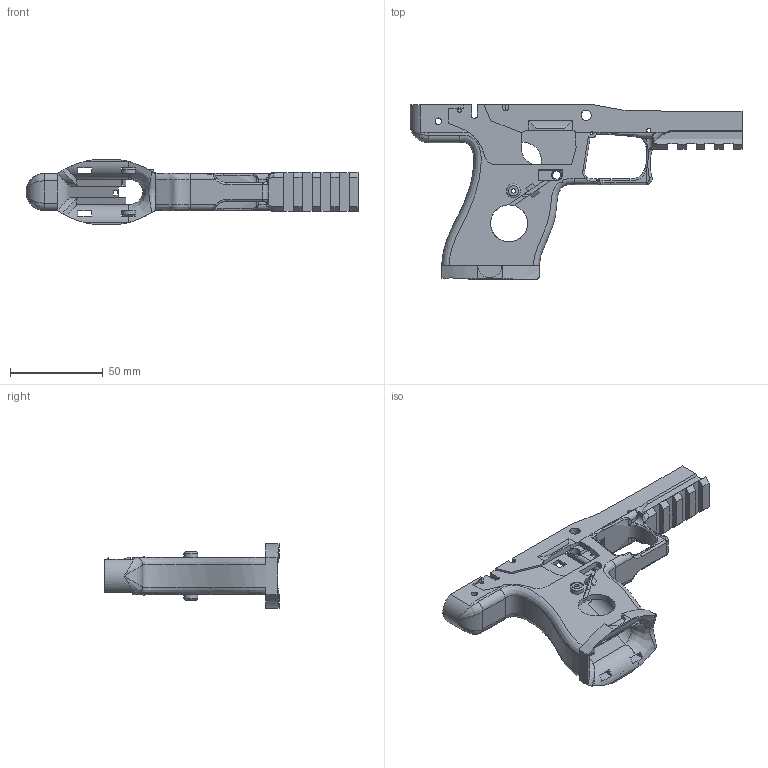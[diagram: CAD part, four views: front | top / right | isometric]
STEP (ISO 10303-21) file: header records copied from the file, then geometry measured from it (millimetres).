
FILE_DESCRIPTION(/* description */ (''),/* implementation_level */ '2;1');
FILE_NAME(/* name */ '//vboxsvr/bigsql-win-testing/CAD/DD2-GIT/freeman1337/freeman1337-lopoint-v2/Frame/STEP/Freeman1337-lopointV2-1.0.step',/* time_stamp */ '2021-05-10T15:19:27-07:00',/* author */ (''),/* organization */ (''),/* preprocessor_version */ 'ST-DEVELOPER v18.1',/* originating_system */ 'Autodesk Translation Framework v10.6.0.1341',/* authorisation */ '');
FILE_SCHEMA (('AUTOMOTIVE_DESIGN { 1 0 10303 214 3 1 1 }'));
Length unit declared in the file: millimetre
Products named in the file (2): lopointV2-Frame; 0
Assembly tree (1 placements, depth 2):
  lopointV2-Frame
    0
Bounding box: 179 x 94.18 x 35 mm (x, y, z)
Volume: 74809.1 mm3; surface area: 38830 mm2
Topology: 1 solids, 1 shells, 2204 faces, 6321 edges, 4187 vertices
Faces by surface type: bspline 1582, plane 516, cylinder 95, torus 10, cone 1
Full cylindrical faces by diameter (mm): 1.5 x2, 2 x1, 2.2 x3, 2.4 x2, 3.5 x2, 3.7 x1, 4.4 x1, 5.5 x3, 6.5 x1, 6.75 x1, 7.5 x2, 20 x3
Entity records: 86808 total; most frequent: CARTESIAN_POINT 44022, ORIENTED_EDGE 12630, EDGE_CURVE 6315, DIRECTION 4553, VERTEX_POINT 4187, LINE 2805, VECTOR 2805, EDGE_LOOP 2332
